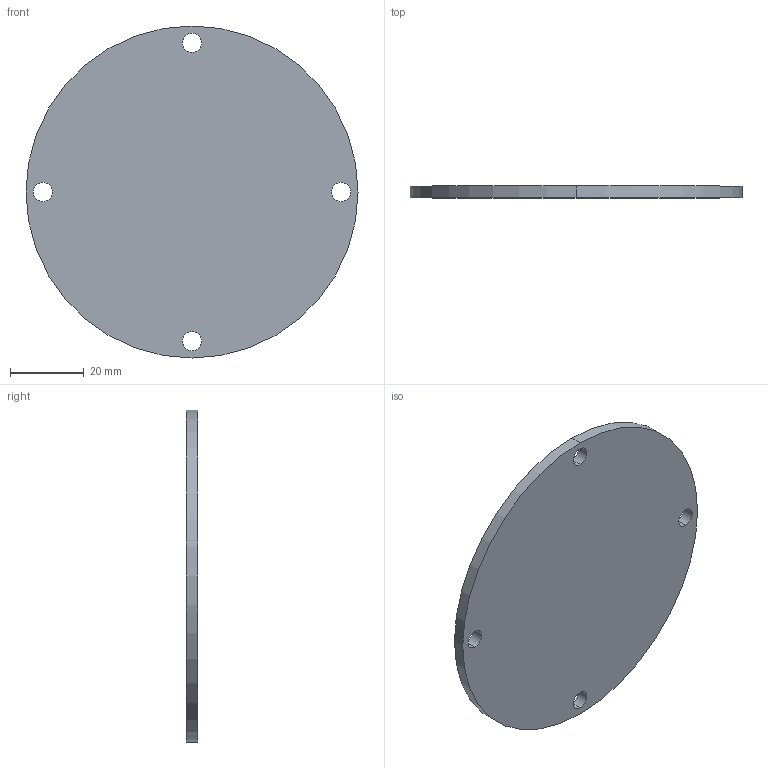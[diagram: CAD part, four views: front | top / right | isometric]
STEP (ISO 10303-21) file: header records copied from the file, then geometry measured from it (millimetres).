
FILE_DESCRIPTION (( 'STEP AP214' ), '1' );
FILE_NAME ('lamp-eye.STEP', '2013-05-01T20:04:14', ( '' ), ( '' ), 'SwSTEP 2.0', 'SolidWorks 2013', '' );
FILE_SCHEMA (( 'AUTOMOTIVE_DESIGN' ));
Length unit declared in the file: millimetre
Products named in the file (1): lamp-eye
Bounding box: 90 x 3.17 x 90 mm (x, y, z)
Volume: 19930.7 mm3; surface area: 13659.2 mm2
Topology: 1 solids, 1 shells, 12 faces, 30 edges, 20 vertices
Faces by surface type: cylinder 10, plane 2
Entity records: 424 total; most frequent: DIRECTION 76, CARTESIAN_POINT 63, ORIENTED_EDGE 60, AXIS2_PLACEMENT_3D 33, EDGE_CURVE 30, EDGE_LOOP 20, CIRCLE 20, VERTEX_POINT 20
